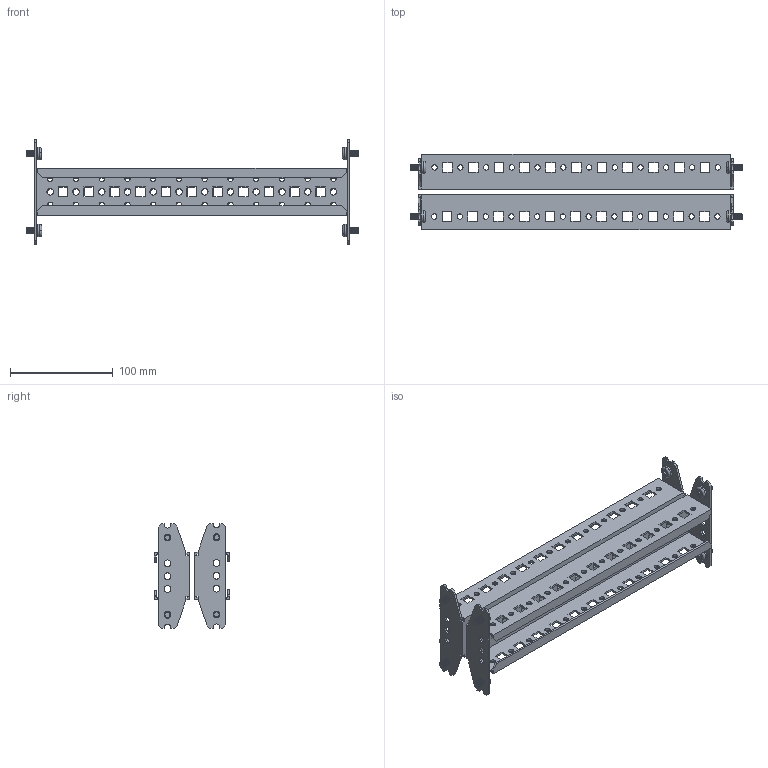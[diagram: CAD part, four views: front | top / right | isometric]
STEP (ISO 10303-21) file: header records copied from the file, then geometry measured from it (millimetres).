
FILE_DESCRIPTION (( 'STEP AP214' ), '1' );
FILE_NAME ('FO-00-VRC-040 Ðåéêà ìîíòàæíàÿ òèïà C 400 ìì (2 øò.óïàê.).STEP', '2025-07-31T12:02:03', ( '' ), ( '' ), 'SwSTEP 2.0', 'SolidWorks 2023', '' );
FILE_SCHEMA (( 'AUTOMOTIVE_DESIGN' ));
Length unit declared in the file: millimetre
Products named in the file (3): FO-00-VRC-040 Рейка монтажная типа C 400 мм (2 шт.упак.); Рейка монтажная типа C 400 мм; Винт М6х10 400 IEK
Assembly tree (6 placements, depth 2):
  FO-00-VRC-040 Рейка монтажная типа C 400 мм (2 шт.упак.)
    Рейка монтажная типа C 400 мм  x2
    Винт М6х10 400 IEK  x4
Bounding box: 322.38 x 73.66 x 101.87 mm (x, y, z)
Volume: 157114.6 mm3; surface area: 172266.7 mm2
Topology: 10 solids, 10 shells, 1740 faces, 4280 edges, 2576 vertices
Faces by surface type: cone 616, cylinder 576, plane 516, torus 32
Entity records: 19211 total; most frequent: DIRECTION 3380, CARTESIAN_POINT 3263, ORIENTED_EDGE 3196, EDGE_CURVE 1598, AXIS2_PLACEMENT_3D 1177, VECTOR 1026, LINE 1026, VERTEX_POINT 996
